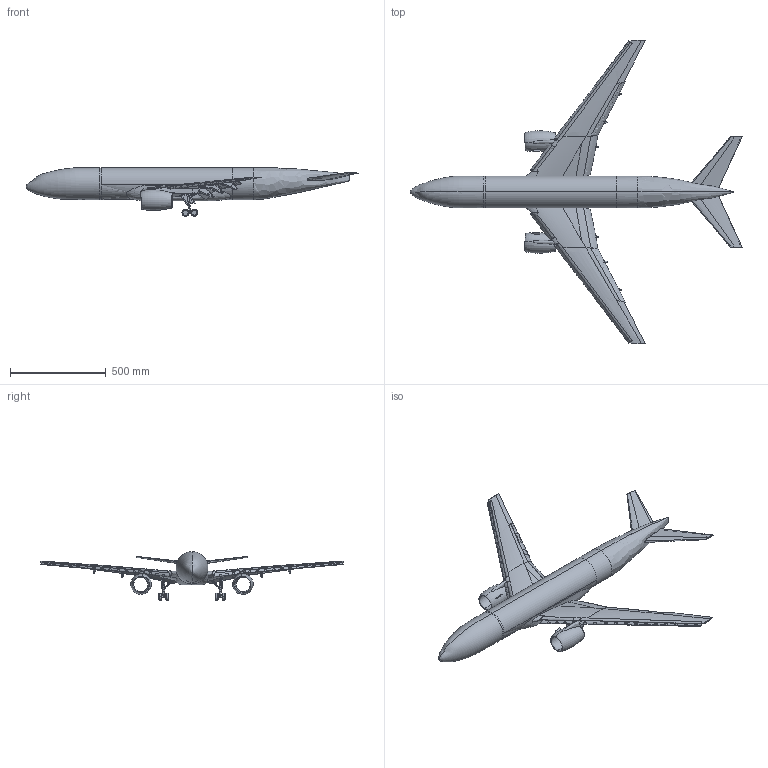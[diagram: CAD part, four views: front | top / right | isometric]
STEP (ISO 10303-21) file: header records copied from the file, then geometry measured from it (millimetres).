
FILE_DESCRIPTION(/* description */ (''),/* implementation_level */ '2;1');
FILE_NAME(/* name */ '3001000_FULL_SPAN_LANDING_CONFIG_clean_2025_07_01.stp',/* time_stamp */ '2025-07-02T13:33:46-04:00',/* author */ (''),/* organization */ (''),/* preprocessor_version */ 'ST-DEVELOPER v16.7',/* originating_system */ 'SIEMENS PLM Software NX 12.0',/* authorisation */ '');
FILE_SCHEMA (('AP203_CONFIGURATION_CONTROLLED_3D_DESIGN_OF_MECHANICAL_PARTS_AND_ASSEMBLIES_MIM_LF { 1 0 10303 403 2 1 2}'));
Products named in the file (1): sbry68B0968Fqhdr
Bounding box: 1737.79 x 1590.95 x 253.91 mm (x, y, z)
Volume: 35931229.8 mm3; surface area: 1801789.7 mm2
Topology: 1 solids, 1 shells, 1638 faces, 4505 edges, 2851 vertices
Faces by surface type: bspline 628, plane 478, cylinder 280, extrusion 120, revolution 80, cone 40, sphere 8, torus 4
Entity records: 298863 total; most frequent: CARTESIAN_POINT 259882, ORIENTED_EDGE 8902, DIRECTION 4884, EDGE_CURVE 4451, VERTEX_POINT 2839, B_SPLINE_CURVE_WITH_KNOTS 2309, EDGE_LOOP 1738, ADVANCED_FACE 1638
